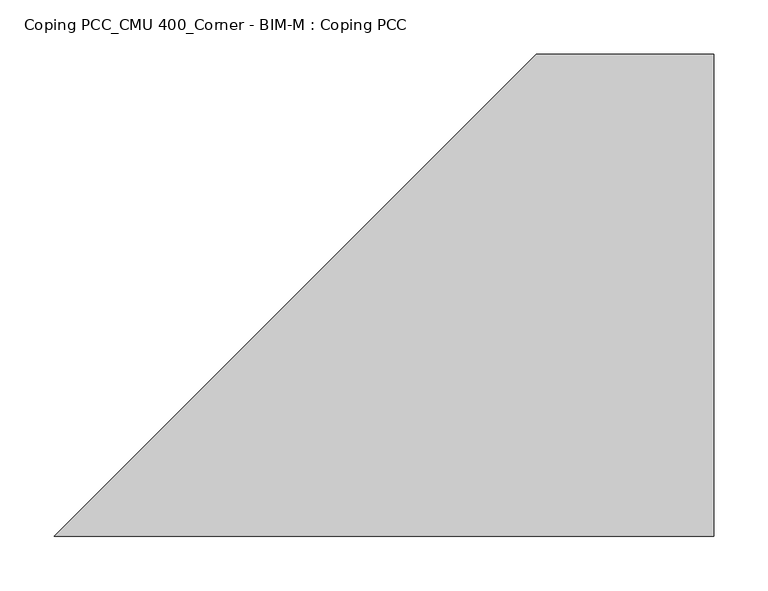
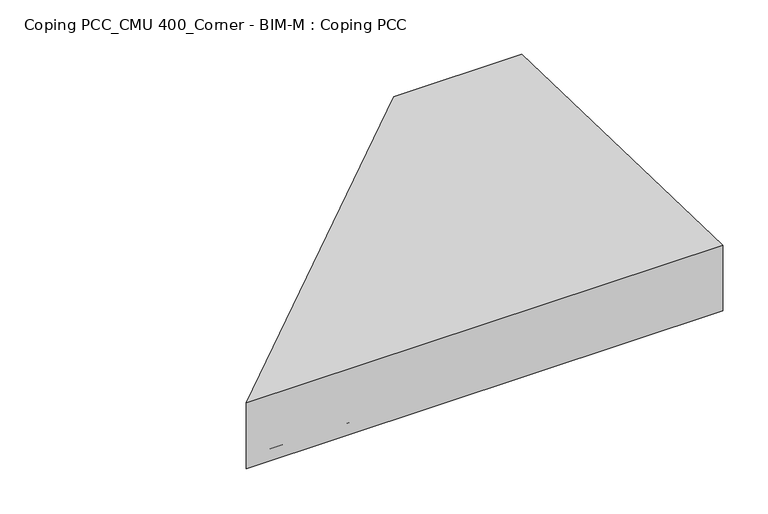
"""IFC4 building model written with IfcOpenShell, lengths in millimetres: proxy geometry, Coping PCC_CMU 400_Corner - BIM-M : Coping PCC."""

from ifc_helpers import new_model, si_unit, frame, origin, place, context, project, spatial, polyline, circle_curve, ellipse_curve, source, transform, mapped, element, save
from ifc_brep_helpers import plane_surface, revolved_surface, advanced_brep


def coping_pcc_cmu_400_corner_bim_m_coping_pcc_5c40f5bd(model_context):
    return source(origin(), model_context, "Body", "AdvancedBrep", [
        advanced_brep(
        [(608.0125, 212.725, 76.3727891), (608.0125, -231.775, 88.7272109), (608.0125, -231.775, 0.0), (608.0125, -228.6, 0.0), (608.0125, -215.9, 0.0), (608.0125, 196.85, 0.0), (608.0125, 209.55, 0.0), (608.0125, 212.725, 0.0), (0.0, -231.775, 88.7272109), (444.5, 212.725, 76.3727891), (444.5, 212.725, 0.0), (441.325, 209.55, 0.0), (428.625, 196.85, 0.0), (15.875, -215.9, 0.0), (3.175, -228.6, 0.0), (0.0, -231.775, 0.0)],
        [
            (0, 1),
            (1, 2),
            (2, 3),
            (3, 4, circle_curve(frame((608.0125, -222.25, 0.0), z_axis=(-1.0, 0.0, 0.0), x_axis=(0.0, 1.0, 0.0)), 6.35)),
            (4, 5),
            (5, 6, circle_curve(frame((608.0125, 203.2, 0.0), z_axis=(-1.0, 0.0, 0.0), x_axis=(0.0, 1.0, 0.0)), 6.35)),
            (6, 7),
            (7, 0),
            (8, 9),
            (9, 10),
            (10, 11),
            (11, 12, ellipse_curve(frame((434.975, 203.2, 0.0), z_axis=(0.7071067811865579, -0.7071067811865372, 0.0), x_axis=(-0.707106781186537, -0.7071067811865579, 0.0)), 8.9802561, 6.35)),
            (12, 13),
            (13, 14, ellipse_curve(frame((9.525, -222.25, 0.0), z_axis=(0.7071067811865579, -0.7071067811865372, 0.0), x_axis=(-0.707106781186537, -0.7071067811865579, 0.0)), 8.9802561, 6.35)),
            (14, 15),
            (15, 8),
            (0, 9),
            (8, 1),
            (15, 2),
            (14, 3),
            (13, 4),
            (12, 5),
            (11, 6),
            (10, 7),
        ],
        [
            plane_surface(frame((608.0125, -231.775, 88.7272109), z_axis=(1.0000000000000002, 0.0, 0.0), x_axis=(0.0, -0.9996139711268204, 0.027783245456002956))),
            plane_surface(frame((0.0, -231.775, 304.8), z_axis=(-0.7071067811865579, 0.7071067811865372, 0.0), x_axis=(0.0, 0.0, -1.0))),
            plane_surface(frame((608.0125, 212.725, 76.3727891), z_axis=(0.0, 0.027783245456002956, 0.9996139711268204), x_axis=(-1.0, 0.0, 0.0))),
            plane_surface(frame((608.0125, -231.775, 88.7272109), z_axis=(0.0, -1.0, 0.0), x_axis=(-1.0, 0.0, 0.0))),
            plane_surface(frame((608.0125, -231.775, 0.0), z_axis=(0.0, 0.0, -1.0), x_axis=(-1.0, 0.0, 0.0))),
            revolved_surface(polyline([(3.175, -215.9, 0.0), (608.0125, -215.9, 0.0)]), (0.0, -222.25, 0.0), (-1.0, 0.0, 0.0)),
            plane_surface(frame((608.0125, -215.9, 0.0), z_axis=(0.0, 0.0, -1.0), x_axis=(-1.0, 0.0, 0.0))),
            revolved_surface(polyline([(428.625, 209.54999999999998, 0.0), (608.0125, 209.54999999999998, 0.0)]), (0.0, 203.2, 0.0), (-1.0, 0.0, 0.0)),
            plane_surface(frame((608.0125, 209.55, 0.0), z_axis=(0.0, 0.0, -1.0), x_axis=(-1.0, 0.0, 0.0))),
            plane_surface(frame((608.0125, 212.725, 0.0), z_axis=(0.0, 1.0, 0.0), x_axis=(-1.0, 0.0, 0.0))),
        ],
        [
            (0, [[1, 2, 3, 4, 5, 6, 7, 8]]),
            (1, [[9, 10, 11, 12, 13, 14, 15, 16]]),
            (2, [[-1, 17, -9, 18]]),
            (3, [[-2, -18, -16, 19]]),
            (4, [[-3, -19, -15, 20]]),
            (5, [[-4, -20, -14, 21]]),
            (6, [[-5, -21, -13, 22]]),
            (7, [[-6, -22, -12, 23]]),
            (8, [[-7, -23, -11, 24]]),
            (9, [[-8, -24, -10, -17]]),
        ],
    ),
    ])


if __name__ == "__main__":
    model = new_model("IFC4")
    model_context = context("Model", 3, world=origin())
    ifc_project = project(units=[si_unit("LENGTHUNIT", "METRE", prefix="MILLI")], contexts=[model_context])
    site = spatial("IfcSite", under=ifc_project)
    building = spatial("IfcBuilding", under=site)
    placement = place(None, origin())
    coping_pcc_cmu_400_corner_bim_m_coping_pcc_shape = coping_pcc_cmu_400_corner_bim_m_coping_pcc_5c40f5bd(model_context)
    element("IfcBuildingElementProxy", 1, Name="Coping PCC_CMU 400_Corner - BIM-M : Coping PCC", ObjectType="Coping PCC_CMU 400_Corner - BIM-M : Coping PCC", at=placement, inside=building, context=model_context, shape_type="MappedRepresentation", body=[
        mapped(coping_pcc_cmu_400_corner_bim_m_coping_pcc_shape, transform((0.0, 0.0, 0.0), x_axis=(1.0, 0.0, 0.0), y_axis=(0.0, 1.0, 0.0), z_axis=(0.0, 0.0, 1.0))),
    ])
    save(model, "model.ifc")
